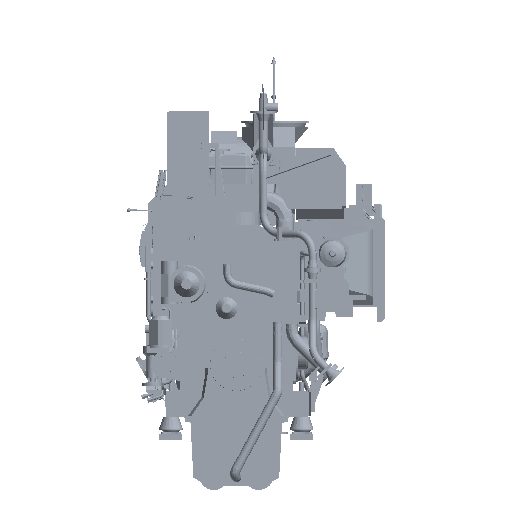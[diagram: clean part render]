
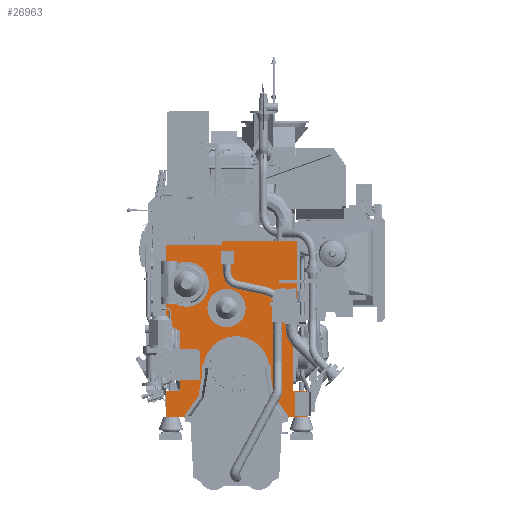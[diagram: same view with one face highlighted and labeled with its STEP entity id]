
A CAD part, left-side view. The second image highlights one B-rep face of the part: STEP entity #26963.
In plain terms, the highlighted planar face has unit normal (-1, 0, 0).
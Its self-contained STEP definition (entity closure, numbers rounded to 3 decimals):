
#17089=FACE_OUTER_BOUND('',#83146,.T.);
#26963=ADVANCED_FACE('',(#17089),#38661,.F.);
#38661=PLANE('',#204190);
#44939=LINE('',#270809,#61422);
#44943=LINE('',#270838,#61426);
#44947=LINE('',#270867,#61430);
#44951=LINE('',#270896,#61434);
#44954=LINE('',#270921,#61437);
#44967=LINE('',#270972,#61450);
#44975=LINE('',#271156,#61458);
#44992=LINE('',#271915,#61475);
#44998=LINE('',#271925,#61481);
#45003=LINE('',#271933,#61486);
#45006=LINE('',#271939,#61489);
#45008=LINE('',#271942,#61491);
#45011=LINE('',#271948,#61494);
#45013=LINE('',#271951,#61496);
#45015=LINE('',#271954,#61498);
#45018=LINE('',#271960,#61501);
#45021=LINE('',#271966,#61504);
#45023=LINE('',#271969,#61506);
#45024=LINE('',#271971,#61507);
#61422=VECTOR('',#220555,1.);
#61426=VECTOR('',#220581,1.);
#61430=VECTOR('',#220607,1.);
#61434=VECTOR('',#220633,1.);
#61437=VECTOR('',#220656,1.);
#61450=VECTOR('',#220695,1.);
#61458=VECTOR('',#220713,1.);
#61475=VECTOR('',#220766,1.);
#61481=VECTOR('',#220776,1.);
#61486=VECTOR('',#220783,1.);
#61489=VECTOR('',#220788,1.);
#61491=VECTOR('',#220792,1.);
#61494=VECTOR('',#220797,1.);
#61496=VECTOR('',#220801,1.);
#61498=VECTOR('',#220805,1.);
#61501=VECTOR('',#220810,1.);
#61504=VECTOR('',#220815,1.);
#61506=VECTOR('',#220819,1.);
#61507=VECTOR('',#220822,1.);
#83146=EDGE_LOOP('',(#97431,#97432,#97433,#97434,#97435,#97436,#97437,#97438,
#97439,#97440,#97441,#97442,#97443,#97444,#97445,#97446,#97447,#97448,#97449,
#97450));
#97431=ORIENTED_EDGE('',*,*,#171022,.T.);
#97432=ORIENTED_EDGE('',*,*,#171098,.T.);
#97433=ORIENTED_EDGE('',*,*,#171130,.F.);
#97434=ORIENTED_EDGE('',*,*,#171104,.T.);
#97435=ORIENTED_EDGE('',*,*,#170968,.T.);
#97436=ORIENTED_EDGE('',*,*,#171109,.T.);
#97437=ORIENTED_EDGE('',*,*,#170982,.T.);
#97438=ORIENTED_EDGE('',*,*,#171112,.T.);
#97439=ORIENTED_EDGE('',*,*,#171114,.T.);
#97440=ORIENTED_EDGE('',*,*,#171047,.T.);
#97441=ORIENTED_EDGE('',*,*,#171088,.T.);
#97442=ORIENTED_EDGE('',*,*,#171060,.T.);
#97443=ORIENTED_EDGE('',*,*,#171117,.T.);
#97444=ORIENTED_EDGE('',*,*,#171119,.T.);
#97445=ORIENTED_EDGE('',*,*,#170996,.T.);
#97446=ORIENTED_EDGE('',*,*,#171121,.T.);
#97447=ORIENTED_EDGE('',*,*,#171010,.T.);
#97448=ORIENTED_EDGE('',*,*,#171124,.T.);
#97449=ORIENTED_EDGE('',*,*,#171127,.T.);
#97450=ORIENTED_EDGE('',*,*,#171129,.T.);
#152556=VERTEX_POINT('',#270808);
#152557=VERTEX_POINT('',#270810);
#152570=VERTEX_POINT('',#270837);
#152571=VERTEX_POINT('',#270839);
#152584=VERTEX_POINT('',#270866);
#152585=VERTEX_POINT('',#270868);
#152598=VERTEX_POINT('',#270895);
#152599=VERTEX_POINT('',#270897);
#152609=VERTEX_POINT('',#270919);
#152611=VERTEX_POINT('',#270922);
#152635=VERTEX_POINT('',#270971);
#152636=VERTEX_POINT('',#270973);
#152644=VERTEX_POINT('',#271155);
#152645=VERTEX_POINT('',#271157);
#152666=VERTEX_POINT('',#271914);
#152669=VERTEX_POINT('',#271926);
#152672=VERTEX_POINT('',#271938);
#152674=VERTEX_POINT('',#271947);
#152676=VERTEX_POINT('',#271959);
#152678=VERTEX_POINT('',#271965);
#170968=EDGE_CURVE('',#152557,#152556,#44939,.T.);
#170982=EDGE_CURVE('',#152571,#152570,#44943,.T.);
#170996=EDGE_CURVE('',#152585,#152584,#44947,.T.);
#171010=EDGE_CURVE('',#152599,#152598,#44951,.T.);
#171022=EDGE_CURVE('',#152611,#152609,#44954,.T.);
#171047=EDGE_CURVE('',#152636,#152635,#44967,.T.);
#171060=EDGE_CURVE('',#152645,#152644,#44975,.T.);
#171088=EDGE_CURVE('',#152635,#152645,#198689,.T.);
#171098=EDGE_CURVE('',#152609,#152666,#44992,.T.);
#171104=EDGE_CURVE('',#152669,#152557,#44998,.T.);
#171109=EDGE_CURVE('',#152556,#152571,#45003,.T.);
#171112=EDGE_CURVE('',#152570,#152672,#45006,.T.);
#171114=EDGE_CURVE('',#152672,#152636,#45008,.T.);
#171117=EDGE_CURVE('',#152644,#152674,#45011,.T.);
#171119=EDGE_CURVE('',#152674,#152585,#45013,.T.);
#171121=EDGE_CURVE('',#152584,#152599,#45015,.T.);
#171124=EDGE_CURVE('',#152598,#152676,#45018,.T.);
#171127=EDGE_CURVE('',#152676,#152678,#45021,.T.);
#171129=EDGE_CURVE('',#152678,#152611,#45023,.T.);
#171130=EDGE_CURVE('',#152669,#152666,#45024,.T.);
#198689=CIRCLE('',#204174,177.);
#204174=AXIS2_PLACEMENT_3D('',#271894,#220749,#220750);
#204190=AXIS2_PLACEMENT_3D('',#271972,#220823,#220824);
#220555=DIRECTION('',(0.,1.,0.));
#220581=DIRECTION('',(0.,-1.,0.));
#220607=DIRECTION('',(0.,-1.,0.));
#220633=DIRECTION('',(0.,1.,0.));
#220656=DIRECTION('',(0.,1.,0.));
#220695=DIRECTION('',(0.,-1.,0.));
#220713=DIRECTION('',(0.,-1.,0.));
#220749=DIRECTION('',(1.,0.,0.));
#220750=DIRECTION('',(0.,-1.,0.));
#220766=DIRECTION('',(0.,0.,-1.));
#220776=DIRECTION('',(0.,0.,-1.));
#220783=DIRECTION('',(0.,0.,-1.));
#220788=DIRECTION('',(0.,-0.577,0.817));
#220792=DIRECTION('',(0.,0.,1.));
#220797=DIRECTION('',(0.,0.,-1.));
#220801=DIRECTION('',(0.,-0.577,-0.817));
#220805=DIRECTION('',(0.,0.,1.));
#220810=DIRECTION('',(0.,0.,1.));
#220815=DIRECTION('',(0.,-1.,0.));
#220819=DIRECTION('',(0.,0.,1.));
#220822=DIRECTION('',(0.,0.866,0.5));
#220823=DIRECTION('',(1.,0.,0.));
#220824=DIRECTION('',(0.,0.,-1.));
#270808=CARTESIAN_POINT('',(-4650.,675.,-250.));
#270809=CARTESIAN_POINT('',(-4650.,540.,-250.));
#270810=CARTESIAN_POINT('',(-4650.,540.,-250.));
#270837=CARTESIAN_POINT('',(-4650.,450.,-500.));
#270838=CARTESIAN_POINT('',(-4650.,675.,-500.));
#270839=CARTESIAN_POINT('',(-4650.,675.,-500.));
#270866=CARTESIAN_POINT('',(-4650.,-675.,-500.));
#270867=CARTESIAN_POINT('',(-4650.,-450.,-500.));
#270868=CARTESIAN_POINT('',(-4650.,-450.,-500.));
#270895=CARTESIAN_POINT('',(-4650.,-540.,-250.));
#270896=CARTESIAN_POINT('',(-4650.,-675.,-250.));
#270897=CARTESIAN_POINT('',(-4650.,-675.,-250.));
#270919=CARTESIAN_POINT('',(-4650.,675.,1180.));
#270921=CARTESIAN_POINT('',(-4650.,-585.,1180.));
#270922=CARTESIAN_POINT('',(-4650.,-585.,1180.));
#270971=CARTESIAN_POINT('',(-4650.,177.,0.));
#270972=CARTESIAN_POINT('',(-4650.,330.,0.));
#270973=CARTESIAN_POINT('',(-4650.,330.,0.));
#271155=CARTESIAN_POINT('',(-4650.,-330.,0.));
#271156=CARTESIAN_POINT('',(-4650.,-177.,0.));
#271157=CARTESIAN_POINT('',(-4650.,-177.,0.));
#271894=CARTESIAN_POINT('',(-4650.,0.,0.));
#271914=CARTESIAN_POINT('',(-4650.,675.,400.));
#271915=CARTESIAN_POINT('',(-4650.,675.,1055.));
#271925=CARTESIAN_POINT('',(-4650.,540.,482.058));
#271926=CARTESIAN_POINT('',(-4650.,540.,322.058));
#271933=CARTESIAN_POINT('',(-4650.,675.,-250.));
#271938=CARTESIAN_POINT('',(-4650.,330.,-330.));
#271939=CARTESIAN_POINT('',(-4650.,450.,-500.));
#271942=CARTESIAN_POINT('',(-4650.,330.,-330.));
#271947=CARTESIAN_POINT('',(-4650.,-330.,-330.));
#271948=CARTESIAN_POINT('',(-4650.,-330.,0.));
#271951=CARTESIAN_POINT('',(-4650.,-330.,-330.));
#271954=CARTESIAN_POINT('',(-4650.,-675.,-500.));
#271959=CARTESIAN_POINT('',(-4650.,-540.,430.03));
#271960=CARTESIAN_POINT('',(-4650.,-540.,-250.));
#271965=CARTESIAN_POINT('',(-4650.,-585.,430.03));
#271966=CARTESIAN_POINT('',(-4650.,-540.,430.03));
#271969=CARTESIAN_POINT('',(-4650.,-585.,430.03));
#271971=CARTESIAN_POINT('',(-4650.,531.676,317.252));
#271972=CARTESIAN_POINT('',(-4650.,0.,0.));
